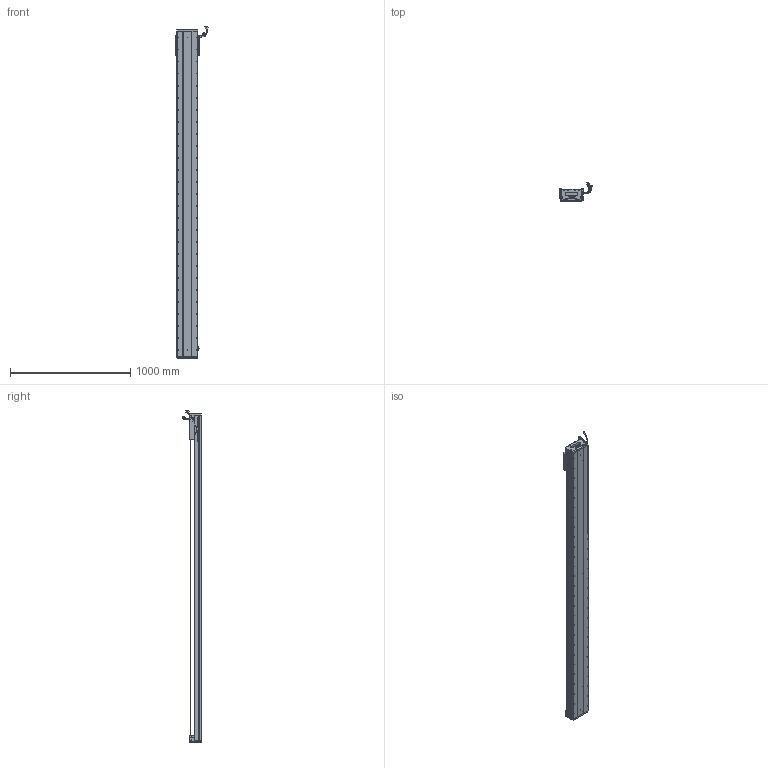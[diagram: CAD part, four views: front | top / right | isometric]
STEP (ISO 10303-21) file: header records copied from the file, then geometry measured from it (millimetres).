
FILE_DESCRIPTION (( 'STEP AP203' ), '1' );
FILE_NAME ('Z2-RY170D-1-L500-B-K.SLDASM_2450.step', '2021-05-17T09:10:57', ( '盈信电脑' ), ( '东莞市道滘镇水果街19号' ), 'SwSTEP 2.0', 'SolidWorks 2016', '' );
FILE_SCHEMA (( 'CONFIG_CONTROL_DESIGN' ));
Length unit declared in the file: millimetre
Products named in the file (36): SCREW-M1.7; 080黍杅芛假蚾釱21遴; Z2-RY170臏賑輸(21遴); Z2-RY170-L500耀郪菁釱_2450; COVER; 140蚥薯蝶輸; 140雄赽晤鎢ん堤盄; SCREW-M1.6-2; LABEL-Part-1; COVER-Part-1; Z-170詩湍傷裔啣; Z-RY170詩湍狟揤裔; SCREW-M1.6-3; PBU_SHEET; HARNESS-Part-1; HARNESS; PSLH080_PSLF2; Z2-RY170D-1-L500-B-K.SLDASM_2450; SCALE-Part-1; SCALE; SCREW-M1.6; SCREW-M1.6-1; Z-RY170詩湍奻揤裔; 170-Z-臏賑輸盄裔(21遴); LABEL; Z2-RY170-L500詩湍145mm遵_2450; SCALE-Part-2; HARNESS-Part-2; SEAL; SHIELDPLATE; 覜茼ん672; 榋妏寠巭燃_暯_M2_2; RY170直线电机感应器672光电感应片; SCREW-M1.7-1; HOLDER0; SEAL-Part-1
Assembly tree (41 placements, depth 4):
  Z2-RY170D-1-L500-B-K.SLDASM_2450
    Z2-RY170-L500耀郪菁釱_2450
    RY170直线电机感应器672光电感应片
    Z2-RY170臏賑輸(21遴)
    覜茼ん672  x3
    PSLH080_PSLF2
      SCALE
        SCALE-Part-1
        SCALE-Part-2
      HARNESS
        HARNESS-Part-1
        HARNESS-Part-2
      LABEL
        LABEL-Part-1
      COVER
        COVER-Part-1
      SEAL
        SEAL-Part-1
      榋妏寠巭燃_暯_M2_2
      SHIELDPLATE
      SCREW-M1.7
      SCREW-M1.7-1
      PBU_SHEET
      SCREW-M1.6
      SCREW-M1.6-1
      SCREW-M1.6-2
      SCREW-M1.6-3
      HOLDER0
    080黍杅芛假蚾釱21遴
    Z2-RY170-L500詩湍145mm遵_2450
    Z-170詩湍傷裔啣  x2
    Z-RY170詩湍奻揤裔  x2
    Z-RY170詩湍狟揤裔  x2
    140蚥薯蝶輸  x2
    170-Z-臏賑輸盄裔(21遴)
    140雄赽晤鎢ん堤盄
Bounding box: 275.29 x 158.11 x 2763.72 mm (x, y, z)
Volume: 13444985.3 mm3; surface area: 3335990.1 mm2
Topology: 36 solids, 36 shells, 4148 faces, 11539 edges, 7207 vertices
Faces by surface type: cylinder 2106, plane 1328, cone 592, torus 69, bspline 53
Entity records: 131459 total; most frequent: CARTESIAN_POINT 37104, ORIENTED_EDGE 19498, DIRECTION 18069, EDGE_CURVE 9749, AXIS2_PLACEMENT_3D 6662, VERTEX_POINT 6325, LINE 4745, VECTOR 4745
